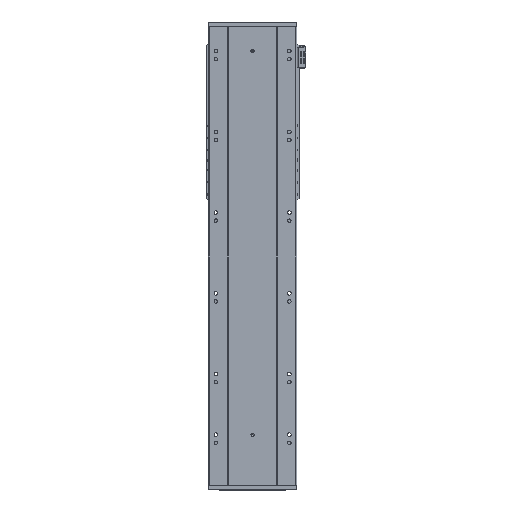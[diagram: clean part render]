
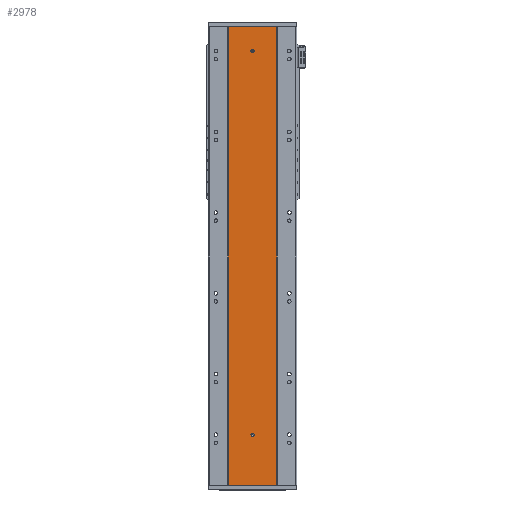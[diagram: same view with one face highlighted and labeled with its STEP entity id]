
A CAD part, front view. The second image highlights one B-rep face of the part: STEP entity #2978.
In plain terms, the highlighted planar face has unit normal (0, -1, 0).
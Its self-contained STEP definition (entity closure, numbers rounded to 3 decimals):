
#2265 = ORIENTED_EDGE ( 'NONE', *, *, #52447, .F. ) ;
#2347 = PLANE ( 'NONE',  #53263 ) ;
#2978 = ADVANCED_FACE ( 'NONE', ( #27257, #25831, #33675 ), #2347, .F. ) ;
#2992 = CARTESIAN_POINT ( 'NONE',  ( 0., 0., 1079. ) ) ;
#5076 = CARTESIAN_POINT ( 'NONE',  ( 0., 0., 1075. ) ) ;
#6954 = VERTEX_POINT ( 'NONE', #41092 ) ;
#7752 = DIRECTION ( 'NONE',  ( 0., 0., -1. ) ) ;
#8434 = DIRECTION ( 'NONE',  ( 0., -1., 0. ) ) ;
#9637 = CARTESIAN_POINT ( 'NONE',  ( -60., 0., 0. ) ) ;
#9701 = DIRECTION ( 'NONE',  ( 0., -1., 0. ) ) ;
#9740 = EDGE_CURVE ( 'NONE', #22310, #22652, #34173, .T. ) ;
#9746 = VECTOR ( 'NONE', #7752, 1000. ) ;
#9770 = EDGE_CURVE ( 'NONE', #58862, #55496, #22011, .T. ) ;
#10762 = ORIENTED_EDGE ( 'NONE', *, *, #20403, .T. ) ;
#11559 = VECTOR ( 'NONE', #56151, 1000. ) ;
#13202 = VERTEX_POINT ( 'NONE', #37803 ) ;
#13225 = DIRECTION ( 'NONE',  ( 0., 0., -1. ) ) ;
#13884 = DIRECTION ( 'NONE',  ( 0., 0., -1. ) ) ;
#15516 = CARTESIAN_POINT ( 'NONE',  ( 0., 0., 1071. ) ) ;
#15662 = ORIENTED_EDGE ( 'NONE', *, *, #35633, .F. ) ;
#18396 = ORIENTED_EDGE ( 'NONE', *, *, #9740, .F. ) ;
#18480 = DIRECTION ( 'NONE',  ( 0., 0., -1. ) ) ;
#19142 = CIRCLE ( 'NONE', #39558, 4. ) ;
#19722 = VECTOR ( 'NONE', #56331, 1000. ) ;
#19771 = VECTOR ( 'NONE', #35065, 1000. ) ;
#20167 = DIRECTION ( 'NONE',  ( 0., 1., 0. ) ) ;
#20403 = EDGE_CURVE ( 'NONE', #38534, #13202, #31960, .T. ) ;
#21166 = CARTESIAN_POINT ( 'NONE',  ( 60., 0., 1135. ) ) ;
#21866 = CARTESIAN_POINT ( 'NONE',  ( 0., 0., 125. ) ) ;
#22011 = CIRCLE ( 'NONE', #49728, 4. ) ;
#22310 = VERTEX_POINT ( 'NONE', #2992 ) ;
#22652 = VERTEX_POINT ( 'NONE', #15516 ) ;
#23950 = AXIS2_PLACEMENT_3D ( 'NONE', #52323, #52510, #56959 ) ;
#25831 = FACE_BOUND ( 'NONE', #31550, .T. ) ;
#25888 = CARTESIAN_POINT ( 'NONE',  ( -60., 0., 1135. ) ) ;
#26191 = ORIENTED_EDGE ( 'NONE', *, *, #57483, .F. ) ;
#26658 = LINE ( 'NONE', #47368, #11559 ) ;
#27257 = FACE_BOUND ( 'NONE', #58843, .T. ) ;
#31550 = EDGE_LOOP ( 'NONE', ( #56007, #44125 ) ) ;
#31960 = LINE ( 'NONE', #34035, #19722 ) ;
#32006 = LINE ( 'NONE', #25888, #19771 ) ;
#33675 = FACE_OUTER_BOUND ( 'NONE', #49841, .T. ) ;
#34035 = CARTESIAN_POINT ( 'NONE',  ( -60., 0., 0. ) ) ;
#34173 = CIRCLE ( 'NONE', #53883, 4. ) ;
#35065 = DIRECTION ( 'NONE',  ( 0., 0., -1. ) ) ;
#35633 = EDGE_CURVE ( 'NONE', #22652, #22310, #37504, .T. ) ;
#37245 = VERTEX_POINT ( 'NONE', #44136 ) ;
#37314 = CARTESIAN_POINT ( 'NONE',  ( 0., 0., 125. ) ) ;
#37504 = CIRCLE ( 'NONE', #23950, 4. ) ;
#37803 = CARTESIAN_POINT ( 'NONE',  ( 60., 0., 0. ) ) ;
#38534 = VERTEX_POINT ( 'NONE', #9637 ) ;
#39558 = AXIS2_PLACEMENT_3D ( 'NONE', #21866, #8434, #13225 ) ;
#41092 = CARTESIAN_POINT ( 'NONE',  ( -60., 0., 1135. ) ) ;
#41384 = DIRECTION ( 'NONE',  ( 0., -1., 0. ) ) ;
#41821 = CARTESIAN_POINT ( 'NONE',  ( 0., 0., 121. ) ) ;
#44125 = ORIENTED_EDGE ( 'NONE', *, *, #9770, .F. ) ;
#44136 = CARTESIAN_POINT ( 'NONE',  ( 60., 0., 1135. ) ) ;
#45036 = EDGE_CURVE ( 'NONE', #6954, #38534, #32006, .T. ) ;
#47368 = CARTESIAN_POINT ( 'NONE',  ( -60., 0., 1135. ) ) ;
#47624 = ORIENTED_EDGE ( 'NONE', *, *, #45036, .T. ) ;
#49504 = CARTESIAN_POINT ( 'NONE',  ( 0., 0., 129. ) ) ;
#49728 = AXIS2_PLACEMENT_3D ( 'NONE', #37314, #9701, #18480 ) ;
#49841 = EDGE_LOOP ( 'NONE', ( #10762, #26191, #2265, #47624 ) ) ;
#52323 = CARTESIAN_POINT ( 'NONE',  ( 0., 0., 1075. ) ) ;
#52447 = EDGE_CURVE ( 'NONE', #6954, #37245, #26658, .T. ) ;
#52510 = DIRECTION ( 'NONE',  ( 0., -1., 0. ) ) ;
#53263 = AXIS2_PLACEMENT_3D ( 'NONE', #57713, #20167, #57108 ) ;
#53883 = AXIS2_PLACEMENT_3D ( 'NONE', #5076, #41384, #13884 ) ;
#54228 = LINE ( 'NONE', #21166, #9746 ) ;
#55496 = VERTEX_POINT ( 'NONE', #41821 ) ;
#56007 = ORIENTED_EDGE ( 'NONE', *, *, #56325, .F. ) ;
#56151 = DIRECTION ( 'NONE',  ( 1., 0., 0. ) ) ;
#56325 = EDGE_CURVE ( 'NONE', #55496, #58862, #19142, .T. ) ;
#56331 = DIRECTION ( 'NONE',  ( 1., 0., 0. ) ) ;
#56959 = DIRECTION ( 'NONE',  ( 0., 0., -1. ) ) ;
#57108 = DIRECTION ( 'NONE',  ( 0., 0., 1. ) ) ;
#57483 = EDGE_CURVE ( 'NONE', #37245, #13202, #54228, .T. ) ;
#57713 = CARTESIAN_POINT ( 'NONE',  ( -60., 0., 1135. ) ) ;
#58843 = EDGE_LOOP ( 'NONE', ( #15662, #18396 ) ) ;
#58862 = VERTEX_POINT ( 'NONE', #49504 ) ;
